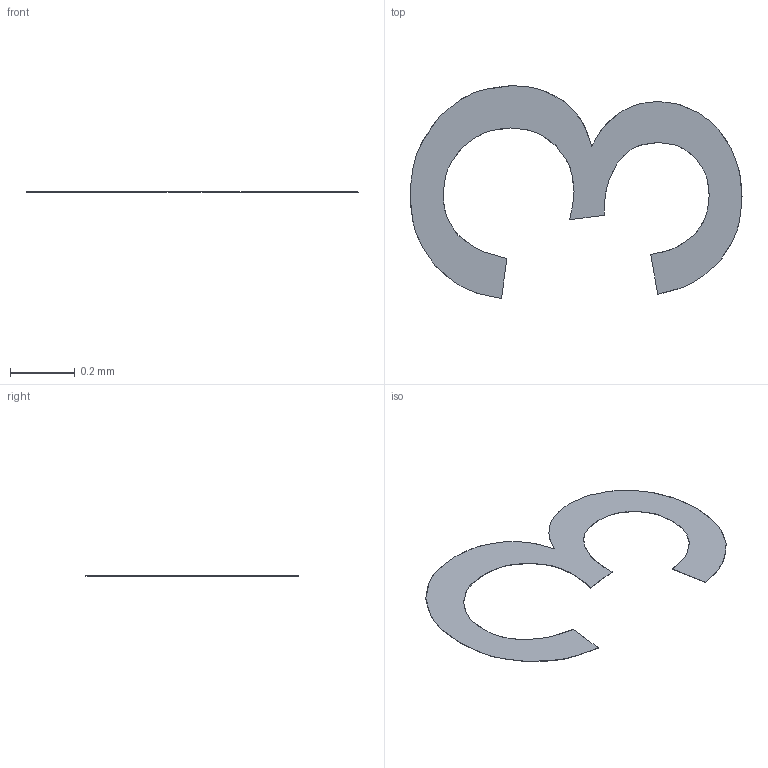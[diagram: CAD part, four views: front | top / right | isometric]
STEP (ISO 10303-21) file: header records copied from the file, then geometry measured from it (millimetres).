
FILE_DESCRIPTION(/* description */ ('STEP AP242 Edition 2','CAx-IF Rec.Pracs.---Representation and Presentation of Product Manufacturing Information (PMI)---4.0---2014-10-13','CAx-IF Rec.Pracs.---3D Tessellated Geometry---0.4---2014-09-14','2;1','CAx-IF Rec.Pracs.---User Defined Attributes---1.5---2016-08-15'),/* implementation_level */ '2;1');
FILE_NAME(/* name */ 'Drone Layout - Surface 338',/* time_stamp */ '2026-10-04T22:22:56Z',/* author */ (''),/* organization */ (''),/* preprocessor_version */ 'ST-DEVELOPER v20',/* originating_system */ 'ONSHAPE BY PTC INC, 1.221',/* authorisation */ ' ');
FILE_SCHEMA (('AP242_MANAGED_MODEL_BASED_3D_ENGINEERING_MIM_LF { 1 0 10303 442 3 1 4 }'));
Length unit declared in the file: metre
Products named in the file (1): VL53L0X:1__Body34
Bounding box: 1.02 x 0.65 x 0 mm (x, y, z)
Volume: 0 mm3; surface area: 0.5 mm2
Topology: 1 solids, 1 shells, 32 faces, 90 edges, 60 vertices
Faces by surface type: bspline 26, plane 6
Entity records: 1264 total; most frequent: CARTESIAN_POINT 604, ORIENTED_EDGE 180, EDGE_CURVE 90, VERTEX_POINT 60, B_SPLINE_CURVE_WITH_KNOTS 53, DIRECTION 51, LINE 37, VECTOR 37
